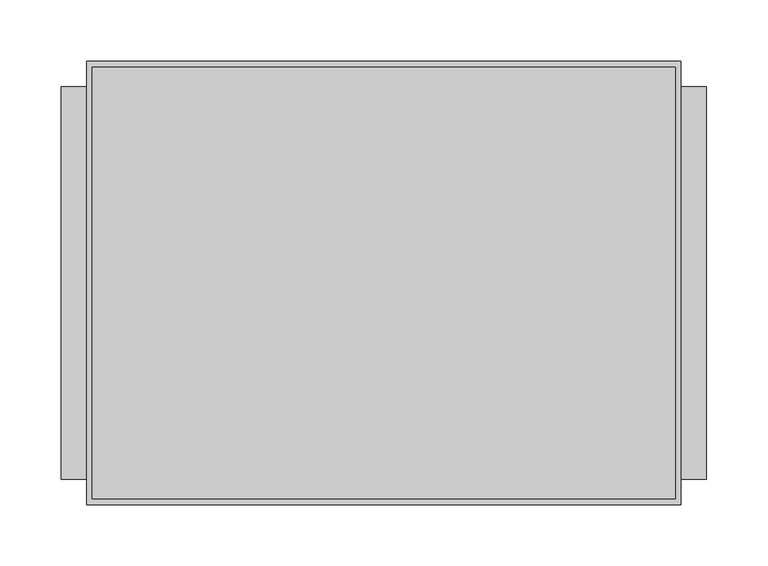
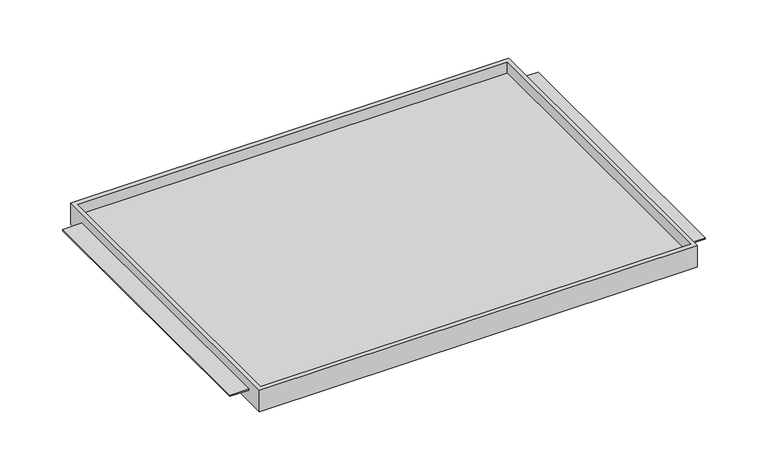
"""IFC4 building model written with IfcOpenShell, lengths in millimetres: furniture geometry."""

from ifc_helpers import new_model, si_unit, origin, place, context, project, spatial, faceted_brep, source, transform, mapped, element, save


def furniture_6a9bea8c(model_context):
    return source(origin(), model_context, "Body", "Brep", [
        faceted_brep([(-242.7689646, -180.975, 1663.7), (242.7689646, -180.975, 1663.7), (242.7689646, -180.975, 1689.1), (-242.7689646, -180.975, 1689.1), (-242.7689646, 180.975, 1663.7), (-242.7689646, 180.975, 1689.1), (242.7689646, 180.975, 1689.1), (242.7689646, 180.975, 1663.7), (242.7689646, -160.3374879, 1678.0002), (242.7689646, 160.3374879, 1678.0002), (242.7689646, 160.3374879, 1676.4), (242.7689646, -160.3374879, 1676.4), (238.125, -176.2125, 1689.1), (-238.125, -176.2125, 1689.1), (-238.125, 175.91278, 1689.1), (238.125, 175.91278, 1689.1), (-242.7689646, 160.3374879, 1678.0002), (-242.7689646, -160.3374879, 1678.0002), (-242.7689646, -160.3374879, 1676.4), (-242.7689646, 160.3374879, 1676.4), (-238.125, -176.2125, 1676.4), (238.125, -176.2125, 1676.4), (238.125, 175.91278, 1676.4), (-238.125, 175.91278, 1676.4), (-263.525, 160.3374879, 1678.0002), (-263.525, -160.3374879, 1678.0002), (263.525, -160.3374879, 1678.0002), (263.525, 160.3374879, 1678.0002), (-263.525, -160.3374879, 1676.4), (-263.525, 160.3374879, 1676.4), (263.525, -160.3374879, 1676.4), (263.525, 160.3374879, 1676.4)], [[[0, 1, 2, 3]], [[4, 5, 6, 7]], [[1, 0, 4, 7]], [[2, 1, 7, 6], [8, 9, 10, 11]], [[3, 2, 6, 5], [12, 13, 14, 15]], [[0, 3, 5, 4], [16, 17, 18, 19]], [[20, 21, 22, 23]], [[21, 20, 13, 12]], [[22, 21, 12, 15]], [[23, 22, 15, 14]], [[20, 23, 14, 13]], [[16, 24, 25, 17]], [[26, 27, 9, 8]], [[18, 28, 29, 19]], [[30, 11, 10, 31]], [[24, 16, 19, 29]], [[25, 24, 29, 28]], [[17, 25, 28, 18]], [[27, 26, 30, 31]], [[9, 27, 31, 10]], [[26, 8, 11, 30]]]),
    ])


if __name__ == "__main__":
    model = new_model("IFC4")
    model_context = context("Model", 3, world=origin())
    ifc_project = project(units=[si_unit("LENGTHUNIT", "METRE", prefix="MILLI")], contexts=[model_context])
    site = spatial("IfcSite", under=ifc_project)
    building = spatial("IfcBuilding", under=site)
    placement = place(None, origin())
    furniture_shape = furniture_6a9bea8c(model_context)
    element("IfcFurniture", 1, ObjectType="HermanMiller_CoStruc_CO203_CTrayShelf : 14\"D x 20\"W", at=placement, inside=building, context=model_context, shape_type="MappedRepresentation", body=[
        mapped(furniture_shape, transform((0.0, 0.0, 0.0), x_axis=(1.0, 0.0, 0.0), y_axis=(0.0, 1.0, 0.0), z_axis=(0.0, 0.0, 1.0))),
    ])
    save(model, "model.ifc")
